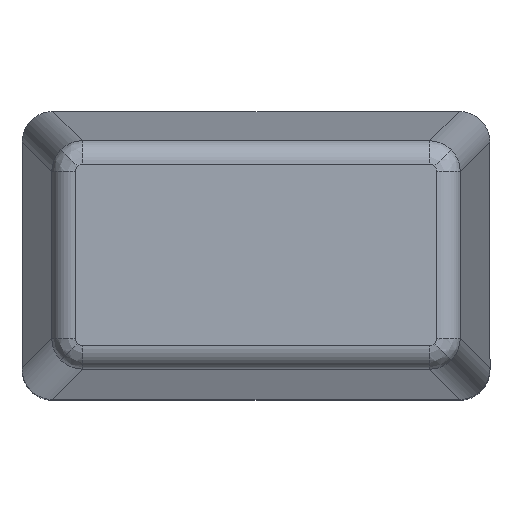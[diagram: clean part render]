
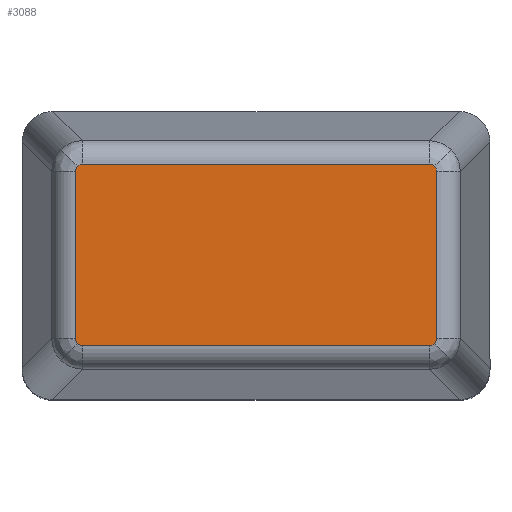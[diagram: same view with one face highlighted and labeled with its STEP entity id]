
A CAD part, top view. The second image highlights one B-rep face of the part: STEP entity #3088.
In plain terms, the highlighted planar face has unit normal (0, 0, 1).
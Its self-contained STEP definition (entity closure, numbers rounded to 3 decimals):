
#39 = CARTESIAN_POINT ( 'NONE',  ( 3.824, -1.769, 25.669 ) ) ;
#210 = EDGE_CURVE ( 'NONE', #4294, #4053, #3861, .T. ) ;
#243 = EDGE_LOOP ( 'NONE', ( #3932, #4679, #3148, #1777, #1482, #1324, #1454, #3023, #4250, #3765, #1109, #332 ) ) ;
#332 = ORIENTED_EDGE ( 'NONE', *, *, #4057, .T. ) ;
#342 = CARTESIAN_POINT ( 'NONE',  ( -3.824, -1.769, 25.669 ) ) ;
#351 = CARTESIAN_POINT ( 'NONE',  ( 3.824, -1.769, 25.669 ) ) ;
#381 = LINE ( 'NONE', #5428, #1983 ) ;
#576 = CARTESIAN_POINT ( 'NONE',  ( -3.674, -1.919, 25.669 ) ) ;
#689 = CARTESIAN_POINT ( 'NONE',  ( -3.824, 1.769, 25.669 ) ) ;
#757 = CARTESIAN_POINT ( 'NONE',  ( 3.674, -1.919, 25.669 ) ) ;
#821 = VERTEX_POINT ( 'NONE', #39 ) ;
#908 = CARTESIAN_POINT ( 'NONE',  ( 3.674, -1.919, 25.669 ) ) ;
#994 = CARTESIAN_POINT ( 'NONE',  ( 3.824, 1.81, 25.669 ) ) ;
#1109 = ORIENTED_EDGE ( 'NONE', *, *, #2914, .T. ) ;
#1188 = CARTESIAN_POINT ( 'NONE',  ( 3.752, 1.904, 25.669 ) ) ;
#1246 = CARTESIAN_POINT ( 'NONE',  ( 3.78, 1.875, 25.669 ) ) ;
#1249 = CARTESIAN_POINT ( 'NONE',  ( 3.752, -1.904, 25.669 ) ) ;
#1271 = CARTESIAN_POINT ( 'NONE',  ( -3.78, 1.875, 25.669 ) ) ;
#1324 = ORIENTED_EDGE ( 'NONE', *, *, #1846, .T. ) ;
#1337 = CARTESIAN_POINT ( 'NONE',  ( 3.78, -1.875, 25.669 ) ) ;
#1392 = DIRECTION ( 'NONE',  ( -1., 0., 0. ) ) ;
#1420 = LINE ( 'NONE', #1438, #2803 ) ;
#1436 = CARTESIAN_POINT ( 'NONE',  ( -3.674, -1.919, 25.669 ) ) ;
#1438 = CARTESIAN_POINT ( 'NONE',  ( -3.824, -1.73, 25.669 ) ) ;
#1454 = ORIENTED_EDGE ( 'NONE', *, *, #4610, .T. ) ;
#1482 = ORIENTED_EDGE ( 'NONE', *, *, #1738, .T. ) ;
#1555 = EDGE_CURVE ( 'NONE', #821, #5111, #3836, .T. ) ;
#1608 = VERTEX_POINT ( 'NONE', #2659 ) ;
#1632 = AXIS2_PLACEMENT_3D ( 'NONE', #3989, #4076, #1392 ) ;
#1655 = CARTESIAN_POINT ( 'NONE',  ( -3.715, 1.919, 25.669 ) ) ;
#1656 = CARTESIAN_POINT ( 'NONE',  ( 3.78, -1.875, 25.669 ) ) ;
#1728 = VERTEX_POINT ( 'NONE', #3230 ) ;
#1738 = EDGE_CURVE ( 'NONE', #2239, #3998, #4458, .T. ) ;
#1777 = ORIENTED_EDGE ( 'NONE', *, *, #5068, .T. ) ;
#1832 = VERTEX_POINT ( 'NONE', #757 ) ;
#1846 = EDGE_CURVE ( 'NONE', #3998, #2464, #2066, .T. ) ;
#1859 =( BOUNDED_CURVE ( )  B_SPLINE_CURVE ( 3, ( #1656, #3714, #2917, #351 ),
 .UNSPECIFIED., .F., .T. ) 
 B_SPLINE_CURVE_WITH_KNOTS ( ( 4, 4 ),
 ( 0., 0.782 ),
 .UNSPECIFIED. ) 
 CURVE ( )  GEOMETRIC_REPRESENTATION_ITEM ( )  RATIONAL_B_SPLINE_CURVE ( ( 1., 0.95, 0.95, 1. ) ) 
 REPRESENTATION_ITEM ( '' )  );
#1874 = CARTESIAN_POINT ( 'NONE',  ( 3.824, 1.769, 25.669 ) ) ;
#1936 = VERTEX_POINT ( 'NONE', #4522 ) ;
#1983 = VECTOR ( 'NONE', #3295, 1000. ) ;
#1996 = CARTESIAN_POINT ( 'NONE',  ( -3.809, 1.847, 25.669 ) ) ;
#2030 = CARTESIAN_POINT ( 'NONE',  ( -3.78, -1.875, 25.669 ) ) ;
#2066 =( BOUNDED_CURVE ( )  B_SPLINE_CURVE ( 3, ( #2030, #3412, #2604, #1436 ),
 .UNSPECIFIED., .F., .T. ) 
 B_SPLINE_CURVE_WITH_KNOTS ( ( 4, 4 ),
 ( 0., 0.782 ),
 .UNSPECIFIED. ) 
 CURVE ( )  GEOMETRIC_REPRESENTATION_ITEM ( )  RATIONAL_B_SPLINE_CURVE ( ( 1., 0.95, 0.95, 1. ) ) 
 REPRESENTATION_ITEM ( '' )  );
#2153 = CARTESIAN_POINT ( 'NONE',  ( -3.824, -1.769, 25.669 ) ) ;
#2239 = VERTEX_POINT ( 'NONE', #2153 ) ;
#2286 = CARTESIAN_POINT ( 'NONE',  ( 3.824, 1.769, 25.669 ) ) ;
#2292 = FACE_OUTER_BOUND ( 'NONE', #243, .T. ) ;
#2417 = CARTESIAN_POINT ( 'NONE',  ( -3.78, -1.875, 25.669 ) ) ;
#2464 = VERTEX_POINT ( 'NONE', #576 ) ;
#2483 = CARTESIAN_POINT ( 'NONE',  ( -3.824, 1.81, 25.669 ) ) ;
#2538 = CARTESIAN_POINT ( 'NONE',  ( 3.715, -1.919, 25.669 ) ) ;
#2598 = DIRECTION ( 'NONE',  ( 0., 1., 0. ) ) ;
#2604 = CARTESIAN_POINT ( 'NONE',  ( -3.715, -1.919, 25.669 ) ) ;
#2659 = CARTESIAN_POINT ( 'NONE',  ( 3.78, -1.875, 25.669 ) ) ;
#2726 = EDGE_CURVE ( 'NONE', #1832, #1608, #2859, .T. ) ;
#2781 = CARTESIAN_POINT ( 'NONE',  ( 3.78, 1.875, 25.669 ) ) ;
#2803 = VECTOR ( 'NONE', #4908, 1000. ) ;
#2859 =( BOUNDED_CURVE ( )  B_SPLINE_CURVE ( 3, ( #908, #2538, #1249, #1337 ),
 .UNSPECIFIED., .F., .T. ) 
 B_SPLINE_CURVE_WITH_KNOTS ( ( 4, 4 ),
 ( 5.502, 6.283 ),
 .UNSPECIFIED. ) 
 CURVE ( )  GEOMETRIC_REPRESENTATION_ITEM ( )  RATIONAL_B_SPLINE_CURVE ( ( 1., 0.95, 0.95, 1. ) ) 
 REPRESENTATION_ITEM ( '' )  );
#2914 = EDGE_CURVE ( 'NONE', #5111, #4882, #4774, .T. ) ;
#2917 = CARTESIAN_POINT ( 'NONE',  ( 3.824, -1.81, 25.669 ) ) ;
#2941 = CARTESIAN_POINT ( 'NONE',  ( 3.715, 1.919, 25.669 ) ) ;
#3012 = CARTESIAN_POINT ( 'NONE',  ( 3.824, 1.73, 25.669 ) ) ;
#3023 = ORIENTED_EDGE ( 'NONE', *, *, #2726, .T. ) ;
#3088 = ADVANCED_FACE ( 'NONE', ( #2292 ), #3605, .T. ) ;
#3148 = ORIENTED_EDGE ( 'NONE', *, *, #5139, .T. ) ;
#3230 = CARTESIAN_POINT ( 'NONE',  ( -3.824, 1.769, 25.669 ) ) ;
#3268 = CARTESIAN_POINT ( 'NONE',  ( -3.78, 1.875, 25.669 ) ) ;
#3295 = DIRECTION ( 'NONE',  ( -1., 0., 0. ) ) ;
#3368 = CARTESIAN_POINT ( 'NONE',  ( -3.78, -1.875, 25.669 ) ) ;
#3380 = CARTESIAN_POINT ( 'NONE',  ( -3.78, 1.875, 25.669 ) ) ;
#3412 = CARTESIAN_POINT ( 'NONE',  ( -3.752, -1.904, 25.669 ) ) ;
#3605 = PLANE ( 'NONE',  #1632 ) ;
#3707 = CARTESIAN_POINT ( 'NONE',  ( 3.635, -1.919, 25.669 ) ) ;
#3714 = CARTESIAN_POINT ( 'NONE',  ( 3.809, -1.847, 25.669 ) ) ;
#3765 = ORIENTED_EDGE ( 'NONE', *, *, #1555, .T. ) ;
#3836 = LINE ( 'NONE', #3012, #4425 ) ;
#3861 =( BOUNDED_CURVE ( )  B_SPLINE_CURVE ( 3, ( #4224, #1655, #5506, #3380 ),
 .UNSPECIFIED., .F., .T. ) 
 B_SPLINE_CURVE_WITH_KNOTS ( ( 4, 4 ),
 ( 5.502, 6.283 ),
 .UNSPECIFIED. ) 
 CURVE ( )  GEOMETRIC_REPRESENTATION_ITEM ( )  RATIONAL_B_SPLINE_CURVE ( ( 1., 0.95, 0.95, 1. ) ) 
 REPRESENTATION_ITEM ( '' )  );
#3916 = VECTOR ( 'NONE', #4177, 1000. ) ;
#3932 = ORIENTED_EDGE ( 'NONE', *, *, #5177, .T. ) ;
#3989 = CARTESIAN_POINT ( 'NONE',  ( 0., 0., 25.669 ) ) ;
#3998 = VERTEX_POINT ( 'NONE', #2417 ) ;
#4051 =( BOUNDED_CURVE ( )  B_SPLINE_CURVE ( 3, ( #1246, #1188, #2941, #4310 ),
 .UNSPECIFIED., .F., .T. ) 
 B_SPLINE_CURVE_WITH_KNOTS ( ( 4, 4 ),
 ( 0., 0.782 ),
 .UNSPECIFIED. ) 
 CURVE ( )  GEOMETRIC_REPRESENTATION_ITEM ( )  RATIONAL_B_SPLINE_CURVE ( ( 1., 0.95, 0.95, 1. ) ) 
 REPRESENTATION_ITEM ( '' )  );
#4053 = VERTEX_POINT ( 'NONE', #1271 ) ;
#4057 = EDGE_CURVE ( 'NONE', #4882, #1936, #4051, .T. ) ;
#4076 = DIRECTION ( 'NONE',  ( 0., 0., 1. ) ) ;
#4128 = LINE ( 'NONE', #3707, #3916 ) ;
#4177 = DIRECTION ( 'NONE',  ( 1., 0., 0. ) ) ;
#4224 = CARTESIAN_POINT ( 'NONE',  ( -3.674, 1.919, 25.669 ) ) ;
#4250 = ORIENTED_EDGE ( 'NONE', *, *, #5154, .T. ) ;
#4294 = VERTEX_POINT ( 'NONE', #4329 ) ;
#4310 = CARTESIAN_POINT ( 'NONE',  ( 3.674, 1.919, 25.669 ) ) ;
#4329 = CARTESIAN_POINT ( 'NONE',  ( -3.674, 1.919, 25.669 ) ) ;
#4425 = VECTOR ( 'NONE', #2598, 1000. ) ;
#4458 =( BOUNDED_CURVE ( )  B_SPLINE_CURVE ( 3, ( #342, #4717, #5204, #3368 ),
 .UNSPECIFIED., .F., .T. ) 
 B_SPLINE_CURVE_WITH_KNOTS ( ( 4, 4 ),
 ( 5.502, 6.283 ),
 .UNSPECIFIED. ) 
 CURVE ( )  GEOMETRIC_REPRESENTATION_ITEM ( )  RATIONAL_B_SPLINE_CURVE ( ( 1., 0.95, 0.95, 1. ) ) 
 REPRESENTATION_ITEM ( '' )  );
#4522 = CARTESIAN_POINT ( 'NONE',  ( 3.674, 1.919, 25.669 ) ) ;
#4610 = EDGE_CURVE ( 'NONE', #2464, #1832, #4128, .T. ) ;
#4679 = ORIENTED_EDGE ( 'NONE', *, *, #210, .T. ) ;
#4717 = CARTESIAN_POINT ( 'NONE',  ( -3.824, -1.81, 25.669 ) ) ;
#4774 =( BOUNDED_CURVE ( )  B_SPLINE_CURVE ( 3, ( #2286, #994, #4807, #5368 ),
 .UNSPECIFIED., .F., .T. ) 
 B_SPLINE_CURVE_WITH_KNOTS ( ( 4, 4 ),
 ( 5.502, 6.283 ),
 .UNSPECIFIED. ) 
 CURVE ( )  GEOMETRIC_REPRESENTATION_ITEM ( )  RATIONAL_B_SPLINE_CURVE ( ( 1., 0.95, 0.95, 1. ) ) 
 REPRESENTATION_ITEM ( '' )  );
#4807 = CARTESIAN_POINT ( 'NONE',  ( 3.809, 1.847, 25.669 ) ) ;
#4882 = VERTEX_POINT ( 'NONE', #2781 ) ;
#4908 = DIRECTION ( 'NONE',  ( 0., -1., 0. ) ) ;
#4960 =( BOUNDED_CURVE ( )  B_SPLINE_CURVE ( 3, ( #3268, #1996, #2483, #689 ),
 .UNSPECIFIED., .F., .T. ) 
 B_SPLINE_CURVE_WITH_KNOTS ( ( 4, 4 ),
 ( 0., 0.782 ),
 .UNSPECIFIED. ) 
 CURVE ( )  GEOMETRIC_REPRESENTATION_ITEM ( )  RATIONAL_B_SPLINE_CURVE ( ( 1., 0.95, 0.95, 1. ) ) 
 REPRESENTATION_ITEM ( '' )  );
#5068 = EDGE_CURVE ( 'NONE', #1728, #2239, #1420, .T. ) ;
#5111 = VERTEX_POINT ( 'NONE', #1874 ) ;
#5139 = EDGE_CURVE ( 'NONE', #4053, #1728, #4960, .T. ) ;
#5154 = EDGE_CURVE ( 'NONE', #1608, #821, #1859, .T. ) ;
#5177 = EDGE_CURVE ( 'NONE', #1936, #4294, #381, .T. ) ;
#5204 = CARTESIAN_POINT ( 'NONE',  ( -3.809, -1.847, 25.669 ) ) ;
#5368 = CARTESIAN_POINT ( 'NONE',  ( 3.78, 1.875, 25.669 ) ) ;
#5428 = CARTESIAN_POINT ( 'NONE',  ( -3.635, 1.919, 25.669 ) ) ;
#5506 = CARTESIAN_POINT ( 'NONE',  ( -3.752, 1.904, 25.669 ) ) ;
